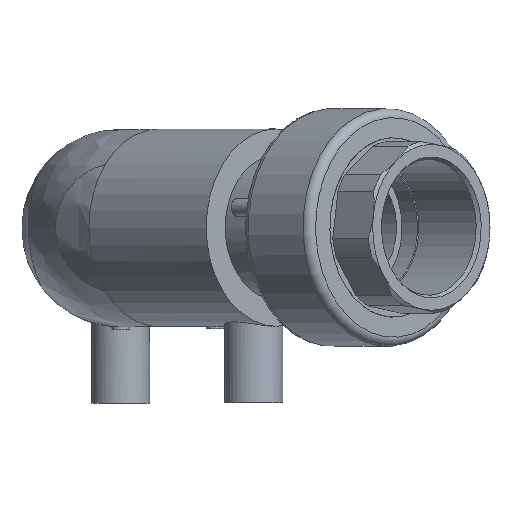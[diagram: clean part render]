
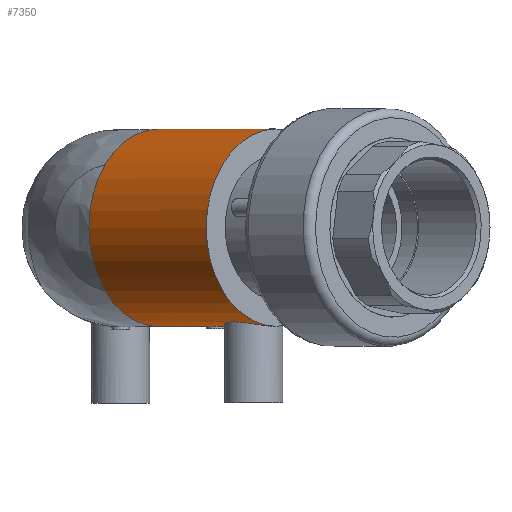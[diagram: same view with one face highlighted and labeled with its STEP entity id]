
A CAD part, top view. The second image highlights one B-rep face of the part: STEP entity #7350.
In plain terms, the highlighted cylindrical face has radius 22 mm (diameter 44 mm), a full revolution.
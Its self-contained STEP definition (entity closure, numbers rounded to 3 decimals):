
#836=CYLINDRICAL_SURFACE('',#9555,22.);
#928=B_SPLINE_CURVE_WITH_KNOTS('',3,(#12378,#12379,#12380,#12381,#12382,
#12383,#12384,#12385,#12386,#12387,#12388,#12389,#12390,#12391,#12392,#12393,
#12394,#12395,#12396),.UNSPECIFIED.,.T.,.F.,(1,1,1,1,1,1,1,1,1,1,1,1,1,
1,1,1,1,1,1,1,1,1,1),(-0.008,-0.005,-0.003,
0.,0.003,0.005,0.008,
0.01,0.013,0.015,0.018,
0.02,0.023,0.026,0.028,
0.031,0.033,0.036,0.038,
0.041,0.043,0.046,0.049),
 .UNSPECIFIED.);
#929=B_SPLINE_CURVE_WITH_KNOTS('',3,(#12407,#12408,#12409,#12410,#12411,
#12412,#12413,#12414,#12415,#12416,#12417),.UNSPECIFIED.,.T.,.F.,(1,1,1,
1,1,1,1,1,1,1,1,1,1,1,1),(-0.005,-0.003,-0.002,
0.,0.002,0.003,0.005,0.006,
0.008,0.009,0.011,0.013,
0.014,0.016,0.017),.UNSPECIFIED.);
#1395=ORIENTED_EDGE('',*,*,#3748,.T.);
#1396=ORIENTED_EDGE('',*,*,#3751,.T.);
#1397=ORIENTED_EDGE('',*,*,#3759,.F.);
#1398=ORIENTED_EDGE('',*,*,#3760,.T.);
#1399=ORIENTED_EDGE('',*,*,#3761,.F.);
#3748=EDGE_CURVE('',#4934,#4934,#928,.T.);
#3751=EDGE_CURVE('',#4937,#4937,#929,.T.);
#3759=EDGE_CURVE('',#4944,#4944,#5674,.F.);
#3760=EDGE_CURVE('',#4945,#4946,#5675,.F.);
#3761=EDGE_CURVE('',#4945,#4946,#5676,.F.);
#4934=VERTEX_POINT('',#12397);
#4937=VERTEX_POINT('',#12418);
#4944=VERTEX_POINT('',#12448);
#4945=VERTEX_POINT('',#12450);
#4946=VERTEX_POINT('',#12451);
#5674=CIRCLE('',#9556,22.);
#5675=CIRCLE('',#9557,22.);
#5676=CIRCLE('',#9558,22.);
#6075=EDGE_LOOP('',(#1395));
#6076=EDGE_LOOP('',(#1396));
#6077=EDGE_LOOP('',(#1397));
#6078=EDGE_LOOP('',(#1398,#1399));
#6660=FACE_BOUND('',#6075,.T.);
#6661=FACE_BOUND('',#6076,.T.);
#6662=FACE_BOUND('',#6077,.T.);
#6663=FACE_BOUND('',#6078,.T.);
#7350=ADVANCED_FACE('',(#6660,#6661,#6662,#6663),#836,.T.);
#9555=AXIS2_PLACEMENT_3D('',#12446,#10472,#10473);
#9556=AXIS2_PLACEMENT_3D('',#12447,#10474,#10475);
#9557=AXIS2_PLACEMENT_3D('',#12449,#10476,#10477);
#9558=AXIS2_PLACEMENT_3D('',#12452,#10478,#10479);
#10472=DIRECTION('',(0.707,0.,0.707));
#10473=DIRECTION('',(0.707,0.,-0.707));
#10474=DIRECTION('',(-0.707,0.,-0.707));
#10475=DIRECTION('',(0.707,0.,-0.707));
#10476=DIRECTION('',(-0.707,0.,-0.707));
#10477=DIRECTION('',(0.707,0.,-0.707));
#10478=DIRECTION('',(0.707,0.,0.707));
#10479=DIRECTION('',(0.,1.,0.));
#12378=CARTESIAN_POINT('',(23.529,-21.129,32.231));
#12379=CARTESIAN_POINT('',(24.981,-20.962,34.418));
#12380=CARTESIAN_POINT('',(27.161,-21.129,35.866));
#12381=CARTESIAN_POINT('',(29.699,-21.516,36.365));
#12382=CARTESIAN_POINT('',(32.236,-21.895,35.866));
#12383=CARTESIAN_POINT('',(34.412,-22.053,34.42));
#12384=CARTESIAN_POINT('',(35.865,-21.895,32.241));
#12385=CARTESIAN_POINT('',(36.365,-21.516,29.696));
#12386=CARTESIAN_POINT('',(35.865,-21.129,27.159));
#12387=CARTESIAN_POINT('',(34.418,-20.963,24.983));
#12388=CARTESIAN_POINT('',(32.242,-21.128,23.533));
#12389=CARTESIAN_POINT('',(29.703,-21.515,23.032));
#12390=CARTESIAN_POINT('',(27.162,-21.895,23.53));
#12391=CARTESIAN_POINT('',(24.982,-22.053,24.979));
#12392=CARTESIAN_POINT('',(23.532,-21.895,27.157));
#12393=CARTESIAN_POINT('',(23.033,-21.516,29.697));
#12394=CARTESIAN_POINT('',(23.529,-21.129,32.231));
#12395=CARTESIAN_POINT('',(24.981,-20.962,34.418));
#12396=CARTESIAN_POINT('',(27.161,-21.129,35.866));
#12397=CARTESIAN_POINT('',(25.102,-21.018,34.295));
#12407=CARTESIAN_POINT('',(23.43,-21.955,21.215));
#12408=CARTESIAN_POINT('',(22.781,-21.886,19.645));
#12409=CARTESIAN_POINT('',(21.213,-21.955,18.997));
#12410=CARTESIAN_POINT('',(19.647,-22.023,19.645));
#12411=CARTESIAN_POINT('',(18.996,-21.955,21.212));
#12412=CARTESIAN_POINT('',(19.646,-21.886,22.78));
#12413=CARTESIAN_POINT('',(21.211,-21.954,23.429));
#12414=CARTESIAN_POINT('',(22.779,-22.023,22.782));
#12415=CARTESIAN_POINT('',(23.43,-21.955,21.215));
#12416=CARTESIAN_POINT('',(22.781,-21.886,19.645));
#12417=CARTESIAN_POINT('',(21.213,-21.955,18.997));
#12418=CARTESIAN_POINT('',(22.627,-21.909,19.799));
#12446=CARTESIAN_POINT('',(8.485,0.,8.485));
#12447=CARTESIAN_POINT('',(34.648,0.,34.648));
#12448=CARTESIAN_POINT('',(50.205,0.,19.092));
#12449=CARTESIAN_POINT('',(8.485,0.,8.485));
#12450=CARTESIAN_POINT('',(-3.468,-14.079,20.439));
#12451=CARTESIAN_POINT('',(-3.468,14.079,20.439));
#12452=CARTESIAN_POINT('',(8.485,0.,8.485));
